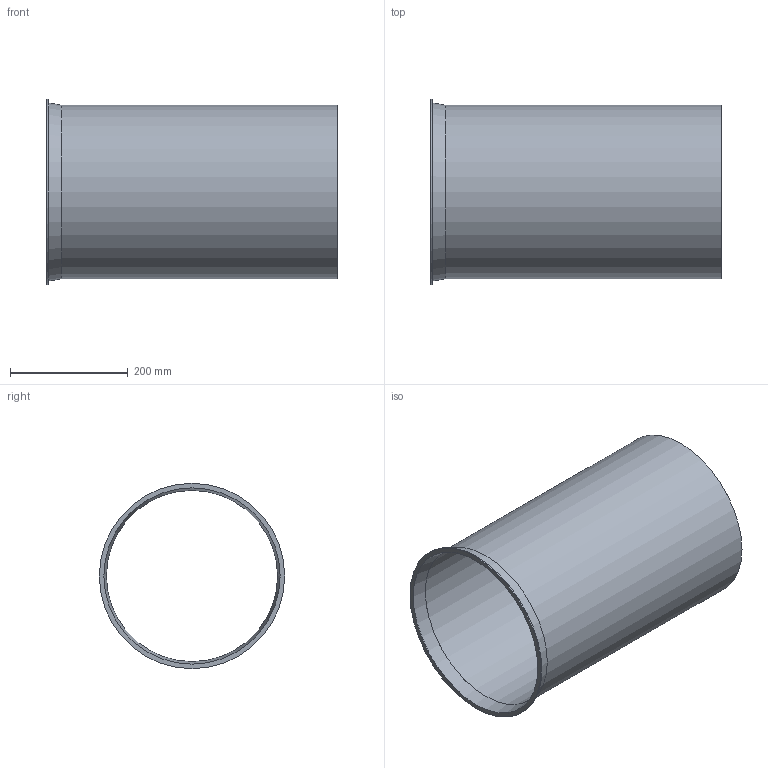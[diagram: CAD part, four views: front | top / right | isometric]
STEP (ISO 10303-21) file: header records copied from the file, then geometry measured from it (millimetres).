
FILE_DESCRIPTION((''),'2;1');
FILE_NAME('U:\Wolfgang\Marcel-3D\fertig\Kapitel 1\3011007.stp','2010-05-31T11:38:03',('TK2'),(''),'Autodesk Inventor 2010','Autodesk Inventor 2010','');
FILE_SCHEMA(('AUTOMOTIVE_DESIGN { 1 0 10303 214 1 1 1 1 }'));
Length unit declared in the file: millimetre
Products named in the file (1): 3011007
Bounding box: 493 x 315 x 315 mm (x, y, z)
Volume: 920294.4 mm3; surface area: 924103.7 mm2
Topology: 1 solids, 1 shells, 8 faces, 14 edges, 9 vertices
Faces by surface type: cylinder 3, plane 3, cone 2
Full cylindrical faces by diameter (mm): 291 x1, 295 x1, 315 x1
Entity records: 194 total; most frequent: DIRECTION 34, CARTESIAN_POINT 25, AXIS2_PLACEMENT_3D 17, ORIENTED_EDGE 16, EDGE_LOOP 16, VERTEX_POINT 8, CIRCLE 8, EDGE_CURVE 8
